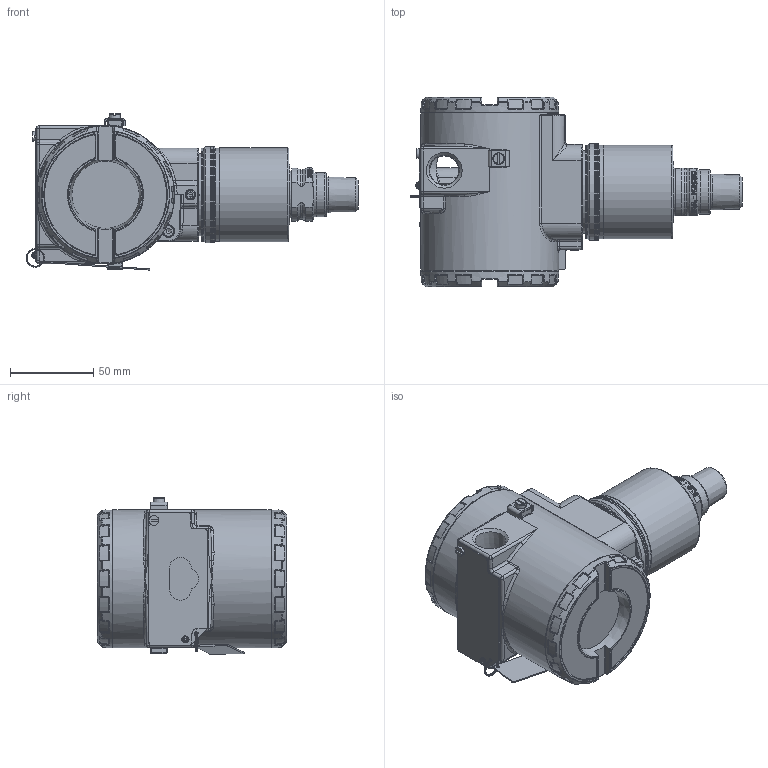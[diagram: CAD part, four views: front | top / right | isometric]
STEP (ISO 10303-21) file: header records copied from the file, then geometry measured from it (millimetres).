
FILE_DESCRIPTION(/* description */ (''),/* implementation_level */ '2;1');
FILE_NAME(/* name */ 'F:\Area\Desenvolvimento_2\Projects\Sensor\projetos\LD29X\3d\dimensionais 3D - clientes\LD29XM5 1-2NPT macho.stp',/* time_stamp */ '2023-01-31T10:04:11-03:00',/* author */ ('inventor02'),/* organization */ (''),/* preprocessor_version */ 'ST-DEVELOPER v17',/* originating_system */ 'Autodesk Inventor 2019',/* authorisation */ '');
FILE_SCHEMA (('CONFIG_CONTROL_DESIGN'));
Products named in the file (27): LD29XM5 1-2NPT macho; SENSOR 29X FX5 1-2NPT MACHO; 101-B-5897-01 capa fx5; 101-C-3677-06 conexao ao processo 1-2NPT; 101-D-1309-04 pescoço LD29x usinado; 101-B-1611-06 conexão 1-2NPT macho; carcaça vazia com tampas e plaqueta; carcaça LD inox sem letras; Subconjunto plaqueta 300; Plaqueta transmissor; Parafuso da Plaqueta; Rebite da Plaqueta; 096-A-0169-03; 101-A-0502-01; Chapa aterramento externo; ISO 1207 - M4 x 8; DIN 915 - M6 x 10; ANSI B18.3.1M - M4x0,7 x 8; Subconjunto tampa com visor aluminio; tampa pintada; VIDRO DO VISOR; oring 41x1 vidro tampa; Trava do vidro da tampa com visor; trava do vidro VH256; Subconjunto tampa sem visor-aluminio; tampa cega 300 pintada p0; 00034775-0
Assembly tree (28 placements, depth 4):
  LD29XM5 1-2NPT macho
    SENSOR 29X FX5 1-2NPT MACHO
      101-B-5897-01 capa fx5
      101-C-3677-06 conexao ao processo 1-2NPT
      101-D-1309-04 pescoço LD29x usinado
      101-B-1611-06 conexão 1-2NPT macho
    carcaça vazia com tampas e plaqueta
      carcaça LD inox sem letras
      Subconjunto plaqueta 300
        Plaqueta transmissor
        Parafuso da Plaqueta
        Rebite da Plaqueta
        096-A-0169-03
        101-A-0502-01
      Chapa aterramento externo
      ISO 1207 - M4 x 8
      DIN 915 - M6 x 10
      ANSI B18.3.1M - M4x0,7 x 8  x2
      Subconjunto tampa com visor aluminio
        tampa pintada
        VIDRO DO VISOR
        oring 41x1 vidro tampa
        Trava do vidro da tampa com visor
        trava do vidro VH256
        00034775-0
      Subconjunto tampa sem visor-aluminio
        tampa cega 300 pintada p0
        00034775-0
Bounding box: 199.58 x 114 x 93.95 mm (x, y, z)
Volume: 420708.1 mm3; surface area: 184486.2 mm2
Topology: 23 solids, 23 shells, 1925 faces, 4693 edges, 2809 vertices
Faces by surface type: bspline 575, cylinder 430, plane 387, torus 268, cone 160, sphere 105
Full cylindrical faces by diameter (mm): 2 x2, 2.1 x2, 2.459 x5, 2.642 x1, 2.7 x1, 3 x1, 3.242 x4, 3.5 x8, 3.571 x1, 4 x4, 4.3 x1, 4.4 x1, 4.917 x1, 6 x2, 7 x4, 7.087 x2, 7.6 x2, 8 x1, 8.7 x2, 17.475 x2, 17.5 x1, 18 x1, 21.6 x1, 26.5 x2, 28.399 x1, 32.2 x1, 34.15 x1, 35.15 x1, 35.2 x1, 36 x1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
Entity records: 71603 total; most frequent: CARTESIAN_POINT 28108, ORIENTED_EDGE 9158, DIRECTION 8501, EDGE_CURVE 4579, AXIS2_PLACEMENT_3D 3680, VERTEX_POINT 2780, CIRCLE 2164, EDGE_LOOP 2017
